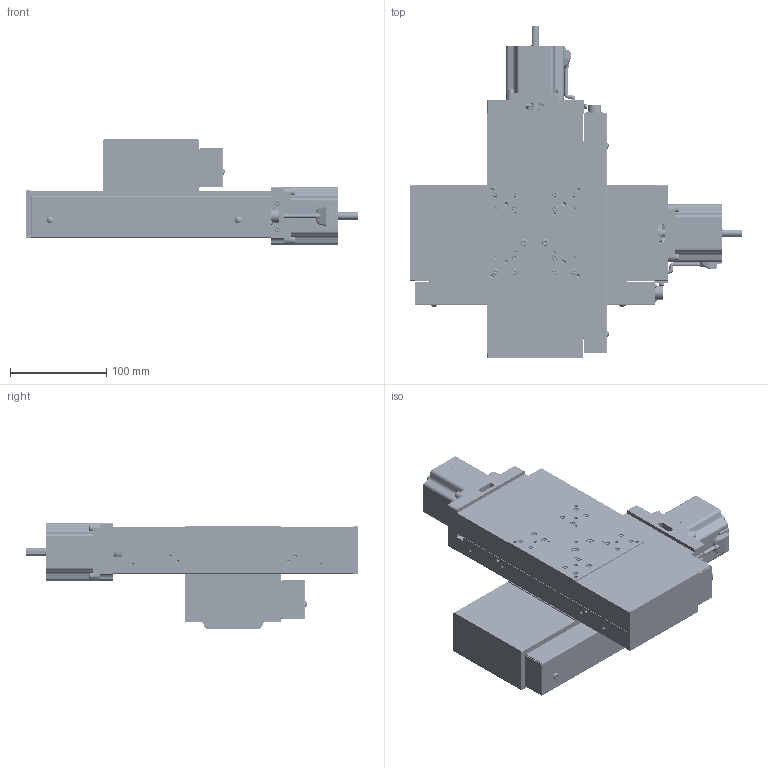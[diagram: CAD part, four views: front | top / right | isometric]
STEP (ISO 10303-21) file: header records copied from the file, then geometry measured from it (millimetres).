
FILE_DESCRIPTION (( 'STEP AP203' ), '1' );
FILE_NAME ('YA10A-L201-RRR.STEP', '2019-02-27T04:10:45', ( '' ), ( '' ), 'SwSTEP 2.0', 'SolidWorks 2018', '' );
FILE_SCHEMA (( 'CONFIG_CONTROL_DESIGN' ));
Length unit declared in the file: millimetre
Products named in the file (10): bellows-Part-2; base; second table; table; second bellows-Part-1; second bellows-Part-2; YA10A-L201-RRR; second bellows; bellows; bellows-Part-1
Assembly tree (9 placements, depth 3):
  YA10A-L201-RRR
    bellows
      bellows-Part-1
      bellows-Part-2
    second bellows
      second bellows-Part-1
      second bellows-Part-2
    table
    second table
    base
Bounding box: 345.5 x 345.5 x 110 mm (x, y, z)
Volume: 2397623.9 mm3; surface area: 540421.5 mm2
Topology: 7 solids, 13 shells, 5140 faces, 12408 edges, 7446 vertices
Faces by surface type: plane 3018, cylinder 1230, cone 776, bspline 40, sphere 40, torus 36
Entity records: 149106 total; most frequent: CARTESIAN_POINT 27040, DIRECTION 26300, ORIENTED_EDGE 24248, EDGE_CURVE 12124, AXIS2_PLACEMENT_3D 9262, VECTOR 7776, LINE 7776, VERTEX_POINT 7446
